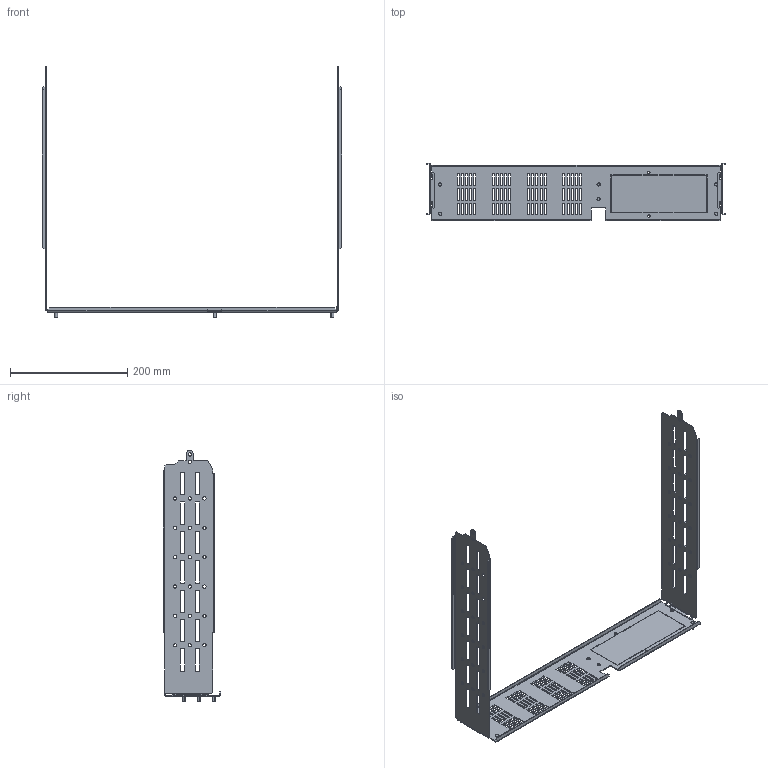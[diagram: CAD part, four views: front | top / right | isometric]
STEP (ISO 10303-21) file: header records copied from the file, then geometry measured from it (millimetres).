
FILE_DESCRIPTION(('CAx-IF Rec.Pracs.---Model Styling and Organization---1.2---2011-12-15','CAx-IF Rec.Pracs.---Geometric and Assembly Validation Properties---4.1---2014-06-16','CAx-IF Rec.Pracs.---PMI Polyline Presentation---2.0---2013-05-24'),'2;1');
FILE_NAME('R5M2WPV2M.stp','2021-05-05T13:01:30+03:00',(''),(''),'STEP Interface 4.4 by CT CoreTechnologie','3D_Evolution4.4 by CT CoreTechnologie','');
FILE_SCHEMA(('AUTOMOTIVE_DESIGN { 1 0 10303 214 1 1 1 1 }'));
Length unit declared in the file: millimetre
Products named in the file (5): R5M2WPV2M; RB.1600.00.00.0_-00; RB.1285.00.00.0_-18; RB.1285.00.00.0_-19; M5x8-DIN7500C_stright
Assembly tree (9 placements, depth 2):
  R5M2WPV2M
    RB.1600.00.00.0_-00
    RB.1285.00.00.0_-18
    RB.1285.00.00.0_-19
    M5x8-DIN7500C_stright  x6
Bounding box: 510 x 97.5 x 429.1 mm (x, y, z)
Surface area: 239629.7 mm2 (no closed solid volume)
Topology: 0 solids, 11 shells, 698 faces, 2048 edges, 1364 vertices
Faces by surface type: plane 556, cylinder 142
Entity records: 23430 total; most frequent: CARTESIAN_POINT 4050, ORIENTED_EDGE 4036, DIRECTION 3662, EDGE_CURVE 2018, VECTOR 1750, LINE 1750, VERTEX_POINT 1344, EDGE_LOOP 974
